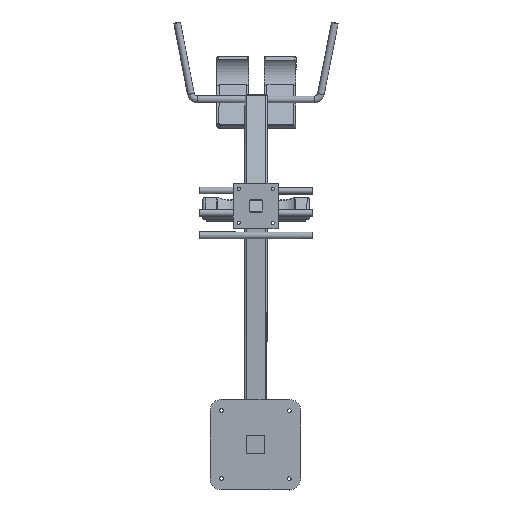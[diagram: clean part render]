
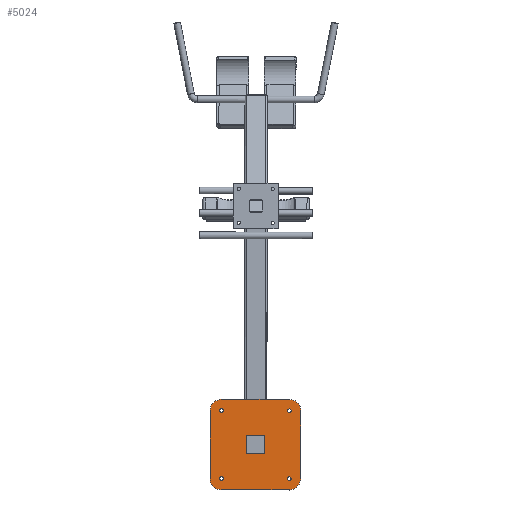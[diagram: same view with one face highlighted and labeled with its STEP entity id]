
A CAD part, front view. The second image highlights one B-rep face of the part: STEP entity #5024.
In plain terms, the highlighted planar face has unit normal (-0.002, -1, 0).
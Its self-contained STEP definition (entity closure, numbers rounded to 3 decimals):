
#44=FACE_BOUND('',#1092,.T.);
#45=FACE_BOUND('',#1093,.T.);
#46=FACE_BOUND('',#1094,.T.);
#47=FACE_BOUND('',#1095,.T.);
#48=FACE_BOUND('',#1096,.T.);
#481=CIRCLE('',#5578,50.);
#482=CIRCLE('',#5579,50.);
#483=CIRCLE('',#5580,50.);
#484=CIRCLE('',#5581,50.);
#485=CIRCLE('',#5582,8.);
#486=CIRCLE('',#5583,8.);
#487=CIRCLE('',#5584,8.);
#488=CIRCLE('',#5585,8.);
#770=FACE_OUTER_BOUND('',#1091,.T.);
#1091=EDGE_LOOP('',(#4425,#4426,#4427,#4428,#4429,#4430,#4431,#4432));
#1092=EDGE_LOOP('',(#4433));
#1093=EDGE_LOOP('',(#4434));
#1094=EDGE_LOOP('',(#4435,#4436,#4437,#4438));
#1095=EDGE_LOOP('',(#4439));
#1096=EDGE_LOOP('',(#4440));
#1495=LINE('',#8726,#1931);
#1501=LINE('',#8739,#1937);
#1505=LINE('',#8748,#1941);
#1512=LINE('',#8777,#1948);
#1515=LINE('',#8791,#1951);
#1516=LINE('',#8793,#1952);
#1517=LINE('',#8795,#1953);
#1518=LINE('',#8796,#1954);
#1931=VECTOR('',#6942,300.);
#1937=VECTOR('',#6950,300.);
#1941=VECTOR('',#6956,300.);
#1948=VECTOR('',#6983,300.);
#1951=VECTOR('',#7000,80.);
#1952=VECTOR('',#7001,80.);
#1953=VECTOR('',#7002,80.);
#1954=VECTOR('',#7003,80.);
#2399=VERTEX_POINT('',#8724);
#2400=VERTEX_POINT('',#8725);
#2405=VERTEX_POINT('',#8736);
#2406=VERTEX_POINT('',#8738);
#2409=VERTEX_POINT('',#8745);
#2410=VERTEX_POINT('',#8747);
#2421=VERTEX_POINT('',#8775);
#2422=VERTEX_POINT('',#8776);
#2423=VERTEX_POINT('',#8785);
#2424=VERTEX_POINT('',#8787);
#2425=VERTEX_POINT('',#8789);
#2426=VERTEX_POINT('',#8790);
#2427=VERTEX_POINT('',#8792);
#2428=VERTEX_POINT('',#8794);
#2429=VERTEX_POINT('',#8797);
#2430=VERTEX_POINT('',#8799);
#3077=EDGE_CURVE('',#2399,#2400,#1495,.T.);
#3083=EDGE_CURVE('',#2405,#2406,#1501,.T.);
#3087=EDGE_CURVE('',#2410,#2409,#1505,.T.);
#3102=EDGE_CURVE('',#2421,#2422,#1512,.T.);
#3105=EDGE_CURVE('',#2400,#2422,#481,.T.);
#3106=EDGE_CURVE('',#2421,#2406,#482,.T.);
#3107=EDGE_CURVE('',#2405,#2410,#483,.T.);
#3108=EDGE_CURVE('',#2409,#2399,#484,.T.);
#3109=EDGE_CURVE('',#2423,#2423,#485,.T.);
#3110=EDGE_CURVE('',#2424,#2424,#486,.T.);
#3111=EDGE_CURVE('',#2425,#2426,#1515,.T.);
#3112=EDGE_CURVE('',#2427,#2425,#1516,.T.);
#3113=EDGE_CURVE('',#2428,#2427,#1517,.T.);
#3114=EDGE_CURVE('',#2426,#2428,#1518,.T.);
#3115=EDGE_CURVE('',#2429,#2429,#487,.T.);
#3116=EDGE_CURVE('',#2430,#2430,#488,.T.);
#4425=ORIENTED_EDGE('',*,*,#3077,.T.);
#4426=ORIENTED_EDGE('',*,*,#3105,.T.);
#4427=ORIENTED_EDGE('',*,*,#3102,.F.);
#4428=ORIENTED_EDGE('',*,*,#3106,.T.);
#4429=ORIENTED_EDGE('',*,*,#3083,.F.);
#4430=ORIENTED_EDGE('',*,*,#3107,.T.);
#4431=ORIENTED_EDGE('',*,*,#3087,.T.);
#4432=ORIENTED_EDGE('',*,*,#3108,.T.);
#4433=ORIENTED_EDGE('',*,*,#3109,.F.);
#4434=ORIENTED_EDGE('',*,*,#3110,.F.);
#4435=ORIENTED_EDGE('',*,*,#3111,.F.);
#4436=ORIENTED_EDGE('',*,*,#3112,.F.);
#4437=ORIENTED_EDGE('',*,*,#3113,.F.);
#4438=ORIENTED_EDGE('',*,*,#3114,.F.);
#4439=ORIENTED_EDGE('',*,*,#3115,.F.);
#4440=ORIENTED_EDGE('',*,*,#3116,.F.);
#4754=PLANE('',#5577);
#5024=ADVANCED_FACE('',(#770,#44,#45,#46,#47,#48),#4754,.T.);
#5577=AXIS2_PLACEMENT_3D('',#8780,#6986,#6987);
#5578=AXIS2_PLACEMENT_3D('',#8781,#6988,#6989);
#5579=AXIS2_PLACEMENT_3D('',#8782,#6990,#6991);
#5580=AXIS2_PLACEMENT_3D('',#8783,#6992,#6993);
#5581=AXIS2_PLACEMENT_3D('',#8784,#6994,#6995);
#5582=AXIS2_PLACEMENT_3D('',#8786,#6996,#6997);
#5583=AXIS2_PLACEMENT_3D('',#8788,#6998,#6999);
#5584=AXIS2_PLACEMENT_3D('',#8798,#7004,#7005);
#5585=AXIS2_PLACEMENT_3D('',#8800,#7006,#7007);
#6942=DIRECTION('',(-0.002,0.,-1.));
#6950=DIRECTION('',(-0.002,0.,-1.));
#6956=DIRECTION('',(-1.,0.002,0.002));
#6983=DIRECTION('',(-1.,0.002,0.002));
#6986=DIRECTION('center_axis',(-0.002,-1.,0.));
#6987=DIRECTION('ref_axis',(-0.002,0.,-1.));
#6988=DIRECTION('center_axis',(-0.002,-1.,0.));
#6989=DIRECTION('ref_axis',(-1.,0.002,0.002));
#6990=DIRECTION('center_axis',(-0.002,-1.,0.));
#6991=DIRECTION('ref_axis',(-0.002,0.,-1.));
#6992=DIRECTION('center_axis',(-0.002,-1.,0.));
#6993=DIRECTION('ref_axis',(1.,-0.002,-0.002));
#6994=DIRECTION('center_axis',(-0.002,-1.,0.));
#6995=DIRECTION('ref_axis',(0.002,0.,1.));
#6996=DIRECTION('center_axis',(-0.002,-1.,0.));
#6997=DIRECTION('ref_axis',(1.,-0.002,-0.002));
#6998=DIRECTION('center_axis',(-0.002,-1.,0.));
#6999=DIRECTION('ref_axis',(1.,-0.002,-0.002));
#7000=DIRECTION('',(0.002,0.,1.));
#7001=DIRECTION('',(1.,-0.002,-0.002));
#7002=DIRECTION('',(-0.002,0.,-1.));
#7003=DIRECTION('',(-1.,0.002,0.002));
#7004=DIRECTION('center_axis',(-0.002,-1.,0.));
#7005=DIRECTION('ref_axis',(1.,-0.002,-0.002));
#7006=DIRECTION('center_axis',(-0.002,-1.,0.));
#7007=DIRECTION('ref_axis',(1.,-0.002,-0.002));
#8724=CARTESIAN_POINT('',(-197.616,-322.512,-428.411));
#8725=CARTESIAN_POINT('',(-198.168,-322.511,-728.41));
#8726=CARTESIAN_POINT('',(-197.616,-322.512,-428.411));
#8736=CARTESIAN_POINT('',(202.382,-323.247,-429.146));
#8738=CARTESIAN_POINT('',(201.831,-323.247,-729.145));
#8739=CARTESIAN_POINT('',(202.382,-323.247,-429.146));
#8745=CARTESIAN_POINT('',(-147.525,-322.604,-378.503));
#8747=CARTESIAN_POINT('',(152.474,-323.156,-379.054));
#8748=CARTESIAN_POINT('',(152.474,-323.156,-379.054));
#8775=CARTESIAN_POINT('',(151.739,-323.155,-779.053));
#8776=CARTESIAN_POINT('',(-148.26,-322.603,-778.502));
#8777=CARTESIAN_POINT('',(151.739,-323.155,-779.053));
#8780=CARTESIAN_POINT('Origin',(-201.517,-322.505,-374.403));
#8781=CARTESIAN_POINT('Origin',(-148.168,-322.603,-728.502));
#8782=CARTESIAN_POINT('Origin',(151.831,-323.155,-729.054));
#8783=CARTESIAN_POINT('Origin',(152.382,-323.155,-429.054));
#8784=CARTESIAN_POINT('Origin',(-147.617,-322.604,-428.503));
#8785=CARTESIAN_POINT('',(143.831,-323.14,-729.039));
#8786=CARTESIAN_POINT('Origin',(151.831,-323.155,-729.054));
#8787=CARTESIAN_POINT('',(-155.617,-322.589,-428.488));
#8788=CARTESIAN_POINT('Origin',(-147.617,-322.604,-428.503));
#8789=CARTESIAN_POINT('',(42.033,-322.953,-618.851));
#8790=CARTESIAN_POINT('',(42.181,-322.953,-538.852));
#8791=CARTESIAN_POINT('',(42.033,-322.953,-618.851));
#8792=CARTESIAN_POINT('',(-37.966,-322.806,-618.704));
#8793=CARTESIAN_POINT('',(-37.966,-322.806,-618.704));
#8794=CARTESIAN_POINT('',(-37.819,-322.806,-538.705));
#8795=CARTESIAN_POINT('',(-37.819,-322.806,-538.705));
#8796=CARTESIAN_POINT('',(42.181,-322.953,-538.852));
#8797=CARTESIAN_POINT('',(-156.168,-322.589,-728.487));
#8798=CARTESIAN_POINT('Origin',(-148.168,-322.603,-728.502));
#8799=CARTESIAN_POINT('',(144.382,-323.141,-429.039));
#8800=CARTESIAN_POINT('Origin',(152.382,-323.155,-429.054));
